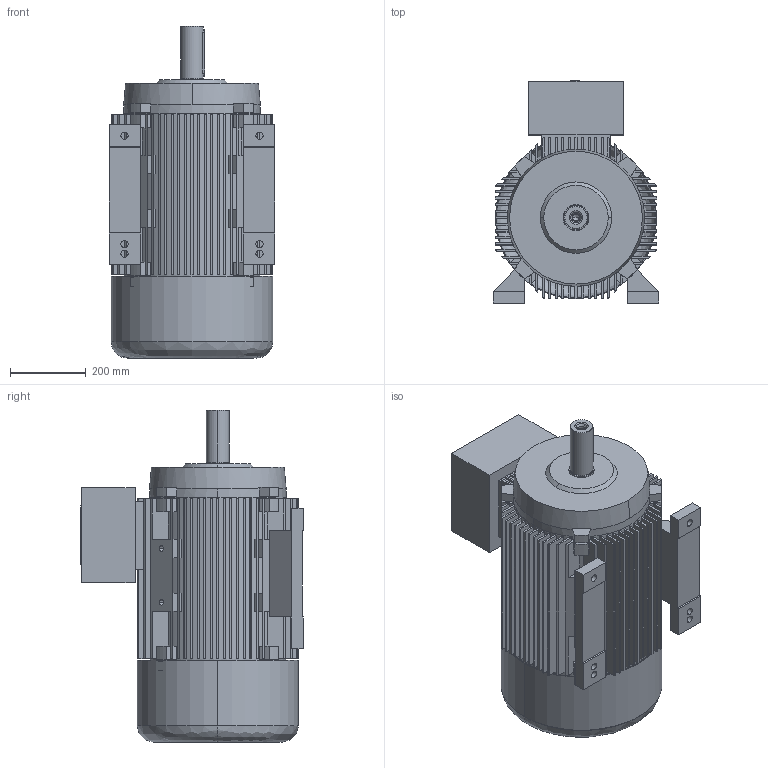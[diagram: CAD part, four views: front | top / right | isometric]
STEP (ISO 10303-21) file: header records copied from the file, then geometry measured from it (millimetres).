
FILE_DESCRIPTION (( 'STEP AP203' ), '1' );
FILE_NAME ('20.17508_A 7AT 225S&M -4, -6 B3.STEP', '2018-04-09T11:18:47', ( '' ), ( '' ), 'SwSTEP 2.0', 'SolidWorks 2017', '' );
FILE_SCHEMA (( 'CONFIG_CONTROL_DESIGN' ));
Length unit declared in the file: millimetre
Products named in the file (1): 20.17508_A 7AT 225S&M -4, -6 B3
Bounding box: 436 x 586 x 875 mm (x, y, z)
Volume: 36372325.7 mm3; surface area: 5287292.5 mm2
Topology: 9 solids, 9 shells, 828 faces, 2225 edges, 1463 vertices
Faces by surface type: plane 655, cylinder 122, cone 38, bspline 13
Entity records: 26455 total; most frequent: CARTESIAN_POINT 5336, ORIENTED_EDGE 4414, DIRECTION 4303, EDGE_CURVE 2207, LINE 1659, VECTOR 1659, VERTEX_POINT 1463, AXIS2_PLACEMENT_3D 1322
